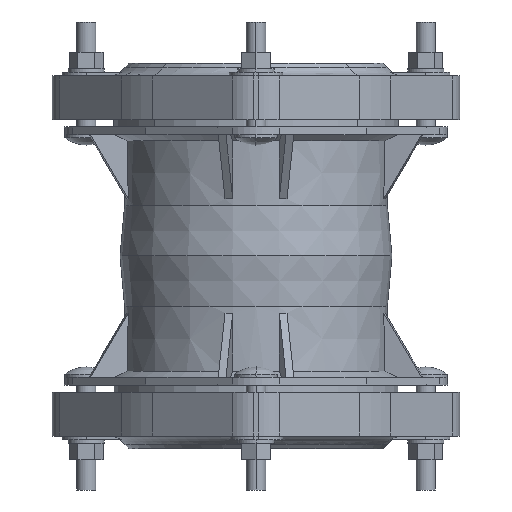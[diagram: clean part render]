
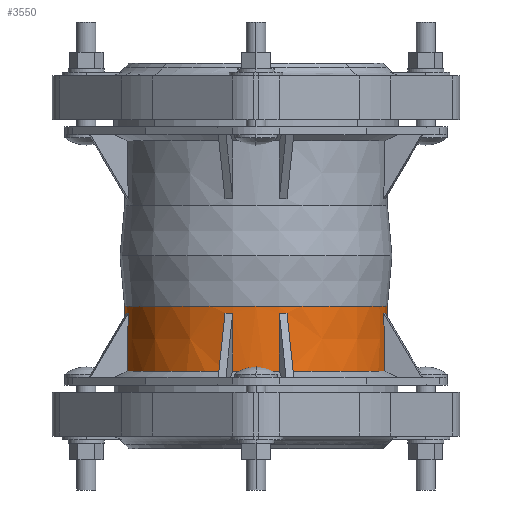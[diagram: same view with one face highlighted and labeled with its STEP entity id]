
A CAD part, left-side view. The second image highlights one B-rep face of the part: STEP entity #3550.
In plain terms, the highlighted conical face has half-angle 0.995 degrees and reference radius 108.825 mm.
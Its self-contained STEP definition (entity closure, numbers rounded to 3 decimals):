
#642=DIRECTION('',(0.,-0.017,-1.));
#643=VECTOR('',#642,53.541);
#644=CARTESIAN_POINT('',(0.,-108.36,-41.5));
#645=LINE('',#644,#643);
#651=DIRECTION('',(0.,0.017,-1.));
#652=VECTOR('',#651,53.541);
#653=CARTESIAN_POINT('',(0.,108.36,-41.5));
#654=LINE('',#653,#652);
#709=CARTESIAN_POINT('',(0.,0.,-95.033));
#710=DIRECTION('',(0.,0.,1.));
#711=DIRECTION('',(0.,1.,0.));
#712=AXIS2_PLACEMENT_3D('',#709,#710,#711);
#719=CARTESIAN_POINT('',(-25.717,106.221,-95.033));
#721=CARTESIAN_POINT('',(0.,0.,-95.033));
#722=DIRECTION('',(0.,0.,1.));
#723=DIRECTION('',(-0.235,0.972,0.));
#724=AXIS2_PLACEMENT_3D('',#721,#722,#723);
#726=CARTESIAN_POINT('',(-106.221,25.717,-95.033));
#751=CARTESIAN_POINT('',(0.,0.,-95.033));
#752=DIRECTION('',(0.,0.,1.));
#753=DIRECTION('',(-0.984,0.177,0.));
#754=AXIS2_PLACEMENT_3D('',#751,#752,#753);
#761=CARTESIAN_POINT('',(-106.221,-25.717,
-95.033));
#763=CARTESIAN_POINT('',(0.,0.,-95.033));
#764=DIRECTION('',(0.,0.,1.));
#765=DIRECTION('',(-0.972,-0.235,0.));
#766=AXIS2_PLACEMENT_3D('',#763,#764,#765);
#768=CARTESIAN_POINT('',(-25.717,-106.221,
-95.033));
#793=CARTESIAN_POINT('',(0.,0.,-95.033));
#794=DIRECTION('',(0.,0.,1.));
#795=DIRECTION('',(-0.177,-0.984,0.));
#796=AXIS2_PLACEMENT_3D('',#793,#794,#795);
#873=DIRECTION('',(0.017,0.003,1.));
#874=VECTOR('',#873,47.615);
#875=CARTESIAN_POINT('',(-107.563,-19.354,
-95.033));
#876=LINE('',#875,#874);
#877=DIRECTION('',(0.017,-0.003,1.));
#878=VECTOR('',#877,47.615);
#879=CARTESIAN_POINT('',(-107.563,19.354,-95.033));
#880=LINE('',#879,#878);
#881=CARTESIAN_POINT('',(-105.4,25.569,-47.091));
#882=CARTESIAN_POINT('',(-105.914,23.468,-47.313));
#883=CARTESIAN_POINT('',(-106.364,21.347,-47.425));
#884=CARTESIAN_POINT('',(-106.749,19.207,-47.425));
#886=CARTESIAN_POINT('',(-105.4,25.569,-47.091));
#887=CARTESIAN_POINT('',(-105.491,25.585,-52.406));
#888=CARTESIAN_POINT('',(-105.673,25.618,-63.043));
#889=CARTESIAN_POINT('',(-105.947,25.667,-79.024));
#890=CARTESIAN_POINT('',(-106.13,25.7,-89.694));
#891=CARTESIAN_POINT('',(-106.221,25.717,-95.033));
#893=CARTESIAN_POINT('',(-25.717,106.221,-95.033));
#894=CARTESIAN_POINT('',(-25.7,106.13,-89.694));
#895=CARTESIAN_POINT('',(-25.667,105.947,-79.024));
#896=CARTESIAN_POINT('',(-25.618,105.673,-63.043));
#897=CARTESIAN_POINT('',(-25.585,105.491,-52.406));
#898=CARTESIAN_POINT('',(-25.569,105.4,-47.091));
#900=CARTESIAN_POINT('',(-19.207,106.749,-47.425));
#901=CARTESIAN_POINT('',(-21.347,106.364,-47.425));
#902=CARTESIAN_POINT('',(-23.468,105.914,-47.313));
#903=CARTESIAN_POINT('',(-25.569,105.4,-47.091));
#905=DIRECTION('',(0.003,-0.017,1.));
#906=VECTOR('',#905,47.615);
#907=CARTESIAN_POINT('',(-19.354,107.563,-95.033));
#908=LINE('',#907,#906);
#909=CARTESIAN_POINT('',(0.,0.,-41.5));
#910=DIRECTION('',(0.,0.,1.));
#911=DIRECTION('',(0.,1.,0.));
#912=AXIS2_PLACEMENT_3D('',#909,#910,#911);
#914=DIRECTION('',(0.003,0.017,1.));
#915=VECTOR('',#914,47.615);
#916=CARTESIAN_POINT('',(-19.354,-107.563,
-95.033));
#917=LINE('',#916,#915);
#918=CARTESIAN_POINT('',(-25.569,-105.4,
-47.091));
#919=CARTESIAN_POINT('',(-23.468,-105.914,
-47.313));
#920=CARTESIAN_POINT('',(-21.347,-106.364,
-47.425));
#921=CARTESIAN_POINT('',(-19.207,-106.749,
-47.425));
#923=CARTESIAN_POINT('',(-25.569,-105.4,
-47.091));
#924=CARTESIAN_POINT('',(-25.585,-105.491,
-52.406));
#925=CARTESIAN_POINT('',(-25.618,-105.673,
-63.043));
#926=CARTESIAN_POINT('',(-25.667,-105.947,
-79.024));
#927=CARTESIAN_POINT('',(-25.7,-106.13,
-89.694));
#928=CARTESIAN_POINT('',(-25.717,-106.221,
-95.033));
#930=CARTESIAN_POINT('',(-106.221,-25.717,
-95.033));
#931=CARTESIAN_POINT('',(-106.13,-25.7,
-89.694));
#932=CARTESIAN_POINT('',(-105.947,-25.667,
-79.024));
#933=CARTESIAN_POINT('',(-105.673,-25.618,
-63.043));
#934=CARTESIAN_POINT('',(-105.491,-25.585,
-52.406));
#935=CARTESIAN_POINT('',(-105.4,-25.569,
-47.091));
#937=CARTESIAN_POINT('',(-106.749,-19.207,
-47.425));
#938=CARTESIAN_POINT('',(-106.364,-21.347,
-47.425));
#939=CARTESIAN_POINT('',(-105.914,-23.468,
-47.313));
#940=CARTESIAN_POINT('',(-105.4,-25.569,
-47.091));
#2364=CARTESIAN_POINT('',(0.,108.36,-41.5));
#2365=CARTESIAN_POINT('',(0.,109.29,-95.033));
#2366=VERTEX_POINT('',#2364);
#2367=VERTEX_POINT('',#2365);
#2368=CARTESIAN_POINT('',(0.,-108.36,-41.5));
#2369=CARTESIAN_POINT('',(0.,-109.29,-95.033));
#2370=VERTEX_POINT('',#2368);
#2371=VERTEX_POINT('',#2369);
#2508=CARTESIAN_POINT('',(-106.749,19.207,
-47.425));
#2510=VERTEX_POINT('',#2508);
#2512=CARTESIAN_POINT('',(-105.4,25.569,
-47.091));
#2514=VERTEX_POINT('',#2512);
#2524=CARTESIAN_POINT('',(-19.207,-106.749,
-47.425));
#2526=VERTEX_POINT('',#2524);
#2528=CARTESIAN_POINT('',(-25.569,-105.4,
-47.091));
#2530=VERTEX_POINT('',#2528);
#2556=CARTESIAN_POINT('',(-19.207,106.749,
-47.425));
#2558=VERTEX_POINT('',#2556);
#2560=CARTESIAN_POINT('',(-25.569,105.4,
-47.091));
#2562=VERTEX_POINT('',#2560);
#2564=CARTESIAN_POINT('',(-106.749,-19.207,
-47.425));
#2566=VERTEX_POINT('',#2564);
#2568=CARTESIAN_POINT('',(-105.4,-25.569,
-47.091));
#2570=VERTEX_POINT('',#2568);
#2599=CARTESIAN_POINT('',(-107.563,19.354,
-95.033));
#2601=VERTEX_POINT('',#2599);
#2602=VERTEX_POINT('',#726);
#2605=CARTESIAN_POINT('',(-19.354,-107.563,
-95.033));
#2607=VERTEX_POINT('',#2605);
#2608=VERTEX_POINT('',#768);
#2617=CARTESIAN_POINT('',(-19.354,107.563,
-95.033));
#2619=VERTEX_POINT('',#2617);
#2621=VERTEX_POINT('',#719);
#2623=CARTESIAN_POINT('',(-107.563,-19.354,
-95.033));
#2625=VERTEX_POINT('',#2623);
#2627=VERTEX_POINT('',#761);
#3512=CARTESIAN_POINT('',(0.,0.,-68.267));
#3513=DIRECTION('',(0.,0.,-1.));
#3514=DIRECTION('',(0.,-1.,0.));
#3515=AXIS2_PLACEMENT_3D('',#3512,#3513,#3514);
#3516=CONICAL_SURFACE('',#3515,108.825,0.995);
#3518=ORIENTED_EDGE('',*,*,#3517,.F.);
#3519=ORIENTED_EDGE('',*,*,#3403,.F.);
#3521=ORIENTED_EDGE('',*,*,#3520,.T.);
#3523=ORIENTED_EDGE('',*,*,#3522,.F.);
#3525=ORIENTED_EDGE('',*,*,#3524,.T.);
#3526=ORIENTED_EDGE('',*,*,#3383,.F.);
#3528=ORIENTED_EDGE('',*,*,#3527,.T.);
#3529=ORIENTED_EDGE('',*,*,#3503,.F.);
#3530=ORIENTED_EDGE('',*,*,#3492,.F.);
#3531=ORIENTED_EDGE('',*,*,#3371,.F.);
#3532=ORIENTED_EDGE('',*,*,#3297,.F.);
#3534=ORIENTED_EDGE('',*,*,#3533,.T.);
#3535=ORIENTED_EDGE('',*,*,#3293,.T.);
#3536=ORIENTED_EDGE('',*,*,#3435,.F.);
#3538=ORIENTED_EDGE('',*,*,#3537,.T.);
#3540=ORIENTED_EDGE('',*,*,#3539,.F.);
#3542=ORIENTED_EDGE('',*,*,#3541,.T.);
#3543=ORIENTED_EDGE('',*,*,#3415,.F.);
#3545=ORIENTED_EDGE('',*,*,#3544,.T.);
#3547=ORIENTED_EDGE('',*,*,#3546,.F.);
#3548=EDGE_LOOP('',(#3518,#3519,#3521,#3523,#3525,#3526,#3528,#3529,#3530,#3531,
#3532,#3534,#3535,#3536,#3538,#3540,#3542,#3543,#3545,#3547));
#3549=FACE_OUTER_BOUND('',#3548,.F.);
#3550=ADVANCED_FACE('',(#3549),#3516,.T.);
#713=CIRCLE('',#712,109.29);
#725=CIRCLE('',#724,109.29);
#755=CIRCLE('',#754,109.29);
#767=CIRCLE('',#766,109.29);
#797=CIRCLE('',#796,109.29);
#885=B_SPLINE_CURVE_WITH_KNOTS('',3,(#881,#882,#883,#884),.UNSPECIFIED.,.F.,.F.,
(4,4),(0.,1.),.UNSPECIFIED.);
#892=B_SPLINE_CURVE_WITH_KNOTS('',3,(#886,#887,#888,#889,#890,#891),
.UNSPECIFIED.,.F.,.F.,(4,1,1,4),(0.,0.333,0.667,1.),
.UNSPECIFIED.);
#899=B_SPLINE_CURVE_WITH_KNOTS('',3,(#893,#894,#895,#896,#897,#898),
.UNSPECIFIED.,.F.,.F.,(4,1,1,4),(0.,0.333,0.667,1.),
.UNSPECIFIED.);
#904=B_SPLINE_CURVE_WITH_KNOTS('',3,(#900,#901,#902,#903),.UNSPECIFIED.,.F.,.F.,
(4,4),(0.,1.),.UNSPECIFIED.);
#913=CIRCLE('',#912,108.36);
#922=B_SPLINE_CURVE_WITH_KNOTS('',3,(#918,#919,#920,#921),.UNSPECIFIED.,.F.,.F.,
(4,4),(0.,1.),.UNSPECIFIED.);
#929=B_SPLINE_CURVE_WITH_KNOTS('',3,(#923,#924,#925,#926,#927,#928),
.UNSPECIFIED.,.F.,.F.,(4,1,1,4),(0.,0.333,0.667,1.),
.UNSPECIFIED.);
#936=B_SPLINE_CURVE_WITH_KNOTS('',3,(#930,#931,#932,#933,#934,#935),
.UNSPECIFIED.,.F.,.F.,(4,1,1,4),(0.,0.333,0.667,1.),
.UNSPECIFIED.);
#941=B_SPLINE_CURVE_WITH_KNOTS('',3,(#937,#938,#939,#940),.UNSPECIFIED.,.F.,.F.,
(4,4),(0.,1.),.UNSPECIFIED.);
#3293=EDGE_CURVE('',#2370,#2371,#645,.T.);
#3297=EDGE_CURVE('',#2366,#2367,#654,.T.);
#3371=EDGE_CURVE('',#2367,#2619,#713,.T.);
#3383=EDGE_CURVE('',#2621,#2602,#725,.T.);
#3403=EDGE_CURVE('',#2601,#2625,#755,.T.);
#3415=EDGE_CURVE('',#2627,#2608,#767,.T.);
#3435=EDGE_CURVE('',#2607,#2371,#797,.T.);
#3492=EDGE_CURVE('',#2619,#2558,#908,.T.);
#3503=EDGE_CURVE('',#2558,#2562,#904,.T.);
#3517=EDGE_CURVE('',#2625,#2566,#876,.T.);
#3520=EDGE_CURVE('',#2601,#2510,#880,.T.);
#3522=EDGE_CURVE('',#2514,#2510,#885,.T.);
#3524=EDGE_CURVE('',#2514,#2602,#892,.T.);
#3527=EDGE_CURVE('',#2621,#2562,#899,.T.);
#3533=EDGE_CURVE('',#2366,#2370,#913,.T.);
#3537=EDGE_CURVE('',#2607,#2526,#917,.T.);
#3539=EDGE_CURVE('',#2530,#2526,#922,.T.);
#3541=EDGE_CURVE('',#2530,#2608,#929,.T.);
#3544=EDGE_CURVE('',#2627,#2570,#936,.T.);
#3546=EDGE_CURVE('',#2566,#2570,#941,.T.);
